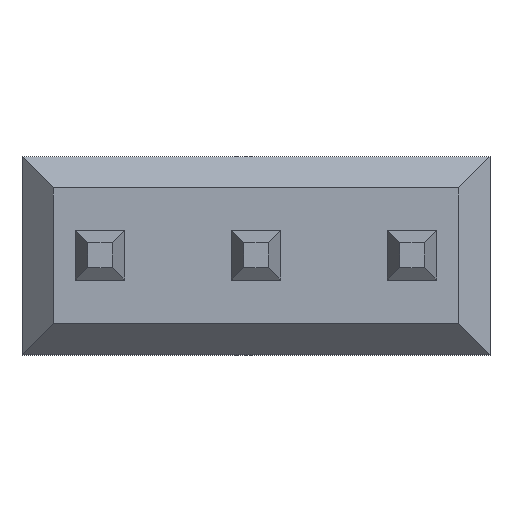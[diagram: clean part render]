
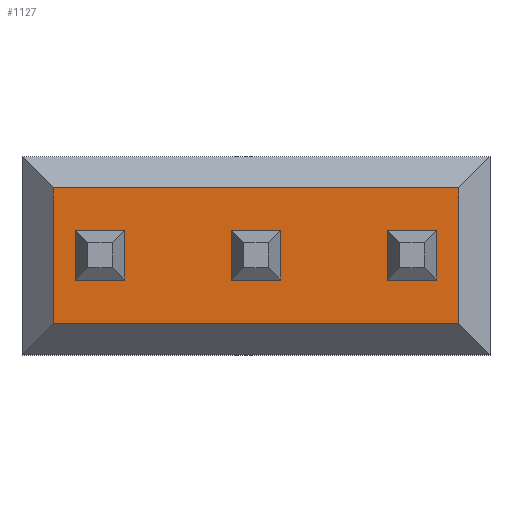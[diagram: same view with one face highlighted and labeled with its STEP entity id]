
A CAD part, top view. The second image highlights one B-rep face of the part: STEP entity #1127.
In plain terms, the highlighted planar face has unit normal (0, 0, 1).
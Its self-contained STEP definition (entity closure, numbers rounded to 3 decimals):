
#17=FACE_BOUND('',#93,.T.);
#18=FACE_BOUND('',#94,.T.);
#19=FACE_BOUND('',#95,.T.);
#21=FACE_OUTER_BOUND('',#92,.T.);
#92=EDGE_LOOP('',(#710,#711,#712,#713));
#93=EDGE_LOOP('',(#714,#715,#716,#717));
#94=EDGE_LOOP('',(#718,#719,#720,#721));
#95=EDGE_LOOP('',(#722,#723,#724,#725));
#178=LINE('',#1587,#326);
#179=LINE('',#1589,#327);
#180=LINE('',#1591,#328);
#181=LINE('',#1592,#329);
#182=LINE('',#1595,#330);
#183=LINE('',#1597,#331);
#184=LINE('',#1599,#332);
#185=LINE('',#1600,#333);
#186=LINE('',#1603,#334);
#187=LINE('',#1605,#335);
#188=LINE('',#1607,#336);
#189=LINE('',#1608,#337);
#190=LINE('',#1611,#338);
#191=LINE('',#1613,#339);
#192=LINE('',#1615,#340);
#193=LINE('',#1616,#341);
#326=VECTOR('',#1286,1.);
#327=VECTOR('',#1287,1.);
#328=VECTOR('',#1288,1.);
#329=VECTOR('',#1289,1.);
#330=VECTOR('',#1290,1.);
#331=VECTOR('',#1291,1.);
#332=VECTOR('',#1292,1.);
#333=VECTOR('',#1293,1.);
#334=VECTOR('',#1294,1.);
#335=VECTOR('',#1295,1.);
#336=VECTOR('',#1296,1.);
#337=VECTOR('',#1297,1.);
#338=VECTOR('',#1298,1.);
#339=VECTOR('',#1299,1.);
#340=VECTOR('',#1300,1.);
#341=VECTOR('',#1301,1.);
#474=VERTEX_POINT('',#1585);
#475=VERTEX_POINT('',#1586);
#476=VERTEX_POINT('',#1588);
#477=VERTEX_POINT('',#1590);
#478=VERTEX_POINT('',#1593);
#479=VERTEX_POINT('',#1594);
#480=VERTEX_POINT('',#1596);
#481=VERTEX_POINT('',#1598);
#482=VERTEX_POINT('',#1601);
#483=VERTEX_POINT('',#1602);
#484=VERTEX_POINT('',#1604);
#485=VERTEX_POINT('',#1606);
#486=VERTEX_POINT('',#1609);
#487=VERTEX_POINT('',#1610);
#488=VERTEX_POINT('',#1612);
#489=VERTEX_POINT('',#1614);
#562=EDGE_CURVE('',#474,#475,#178,.T.);
#563=EDGE_CURVE('',#476,#474,#179,.T.);
#564=EDGE_CURVE('',#477,#476,#180,.T.);
#565=EDGE_CURVE('',#475,#477,#181,.T.);
#566=EDGE_CURVE('',#478,#479,#182,.T.);
#567=EDGE_CURVE('',#480,#478,#183,.T.);
#568=EDGE_CURVE('',#481,#480,#184,.T.);
#569=EDGE_CURVE('',#479,#481,#185,.T.);
#570=EDGE_CURVE('',#482,#483,#186,.T.);
#571=EDGE_CURVE('',#484,#482,#187,.T.);
#572=EDGE_CURVE('',#485,#484,#188,.T.);
#573=EDGE_CURVE('',#483,#485,#189,.T.);
#574=EDGE_CURVE('',#486,#487,#190,.T.);
#575=EDGE_CURVE('',#488,#486,#191,.T.);
#576=EDGE_CURVE('',#489,#488,#192,.T.);
#577=EDGE_CURVE('',#487,#489,#193,.T.);
#710=ORIENTED_EDGE('',*,*,#562,.F.);
#711=ORIENTED_EDGE('',*,*,#563,.F.);
#712=ORIENTED_EDGE('',*,*,#564,.F.);
#713=ORIENTED_EDGE('',*,*,#565,.F.);
#714=ORIENTED_EDGE('',*,*,#566,.F.);
#715=ORIENTED_EDGE('',*,*,#567,.F.);
#716=ORIENTED_EDGE('',*,*,#568,.F.);
#717=ORIENTED_EDGE('',*,*,#569,.F.);
#718=ORIENTED_EDGE('',*,*,#570,.F.);
#719=ORIENTED_EDGE('',*,*,#571,.F.);
#720=ORIENTED_EDGE('',*,*,#572,.F.);
#721=ORIENTED_EDGE('',*,*,#573,.F.);
#722=ORIENTED_EDGE('',*,*,#574,.F.);
#723=ORIENTED_EDGE('',*,*,#575,.F.);
#724=ORIENTED_EDGE('',*,*,#576,.F.);
#725=ORIENTED_EDGE('',*,*,#577,.F.);
#991=PLANE('',#1197);
#1127=ADVANCED_FACE('',(#21,#17,#18,#19),#991,.T.);
#1197=AXIS2_PLACEMENT_3D('',#1584,#1284,#1285);
#1284=DIRECTION('center_axis',(0.,0.,1.));
#1285=DIRECTION('ref_axis',(1.,0.,0.));
#1286=DIRECTION('',(0.,-1.,0.));
#1287=DIRECTION('',(1.,0.,0.));
#1288=DIRECTION('',(0.,1.,0.));
#1289=DIRECTION('',(-1.,0.,0.));
#1290=DIRECTION('',(-1.,0.,0.));
#1291=DIRECTION('',(0.,1.,0.));
#1292=DIRECTION('',(1.,0.,0.));
#1293=DIRECTION('',(0.,-1.,0.));
#1294=DIRECTION('',(-1.,0.,0.));
#1295=DIRECTION('',(0.,1.,0.));
#1296=DIRECTION('',(1.,0.,0.));
#1297=DIRECTION('',(0.,-1.,0.));
#1298=DIRECTION('',(-1.,0.,0.));
#1299=DIRECTION('',(0.,1.,0.));
#1300=DIRECTION('',(1.,0.,0.));
#1301=DIRECTION('',(0.,-1.,0.));
#1584=CARTESIAN_POINT('Origin',(0.,0.,2.54));
#1585=CARTESIAN_POINT('',(2.6,0.87,2.54));
#1586=CARTESIAN_POINT('',(2.6,-0.87,2.54));
#1587=CARTESIAN_POINT('',(2.6,0.,2.54));
#1588=CARTESIAN_POINT('',(-2.6,0.87,2.54));
#1589=CARTESIAN_POINT('',(0.,0.87,2.54));
#1590=CARTESIAN_POINT('',(-2.6,-0.87,2.54));
#1591=CARTESIAN_POINT('',(-2.6,0.,2.54));
#1592=CARTESIAN_POINT('',(0.,-0.87,2.54));
#1593=CARTESIAN_POINT('',(2.32,0.32,2.54));
#1594=CARTESIAN_POINT('',(1.68,0.32,2.54));
#1595=CARTESIAN_POINT('',(1.,0.32,2.54));
#1596=CARTESIAN_POINT('',(2.32,-0.32,2.54));
#1597=CARTESIAN_POINT('',(2.32,0.,2.54));
#1598=CARTESIAN_POINT('',(1.68,-0.32,2.54));
#1599=CARTESIAN_POINT('',(1.,-0.32,2.54));
#1600=CARTESIAN_POINT('',(1.68,0.,2.54));
#1601=CARTESIAN_POINT('',(0.32,0.32,2.54));
#1602=CARTESIAN_POINT('',(-0.32,0.32,2.54));
#1603=CARTESIAN_POINT('',(0.,0.32,2.54));
#1604=CARTESIAN_POINT('',(0.32,-0.32,2.54));
#1605=CARTESIAN_POINT('',(0.32,0.,2.54));
#1606=CARTESIAN_POINT('',(-0.32,-0.32,2.54));
#1607=CARTESIAN_POINT('',(0.,-0.32,2.54));
#1608=CARTESIAN_POINT('',(-0.32,0.,2.54));
#1609=CARTESIAN_POINT('',(-1.68,0.32,2.54));
#1610=CARTESIAN_POINT('',(-2.32,0.32,2.54));
#1611=CARTESIAN_POINT('',(-1.,0.32,2.54));
#1612=CARTESIAN_POINT('',(-1.68,-0.32,2.54));
#1613=CARTESIAN_POINT('',(-1.68,0.,2.54));
#1614=CARTESIAN_POINT('',(-2.32,-0.32,2.54));
#1615=CARTESIAN_POINT('',(-1.,-0.32,2.54));
#1616=CARTESIAN_POINT('',(-2.32,0.,2.54));
